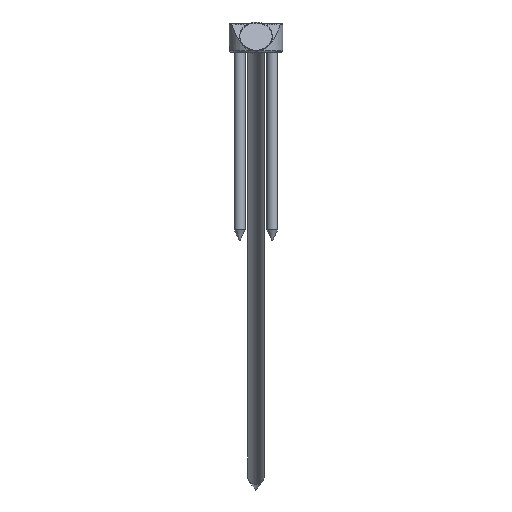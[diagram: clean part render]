
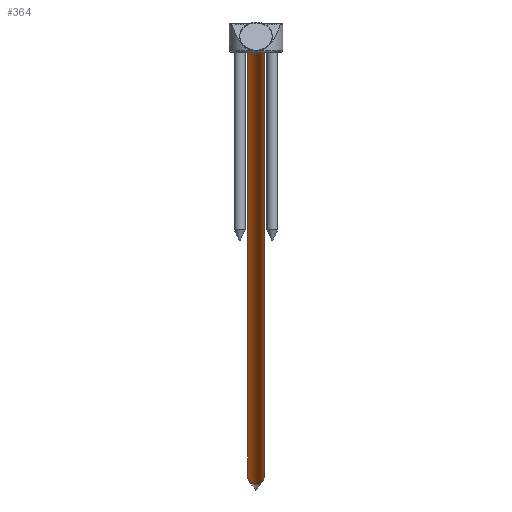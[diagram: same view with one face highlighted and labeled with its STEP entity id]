
A CAD part, front view. The second image highlights one B-rep face of the part: STEP entity #364.
In plain terms, the highlighted cylindrical face has radius 4.5 mm (diameter 9 mm), a full revolution.
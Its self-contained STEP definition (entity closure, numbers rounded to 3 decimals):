
#58=CYLINDRICAL_SURFACE('',#451,4.5);
#144=ORIENTED_EDGE('',*,*,#185,.T.);
#145=ORIENTED_EDGE('',*,*,#184,.F.);
#184=EDGE_CURVE('',#215,#215,#241,.T.);
#185=EDGE_CURVE('',#216,#216,#242,.T.);
#215=VERTEX_POINT('',#706);
#216=VERTEX_POINT('',#709);
#241=CIRCLE('',#450,4.5);
#242=CIRCLE('',#452,4.5);
#284=EDGE_LOOP('',(#144));
#285=EDGE_LOOP('',(#145));
#329=FACE_BOUND('',#284,.T.);
#330=FACE_BOUND('',#285,.T.);
#364=ADVANCED_FACE('',(#329,#330),#58,.T.);
#450=AXIS2_PLACEMENT_3D('',#705,#565,#566);
#451=AXIS2_PLACEMENT_3D('',#707,#567,#568);
#452=AXIS2_PLACEMENT_3D('',#708,#569,#570);
#565=DIRECTION('',(0.,1.,0.));
#566=DIRECTION('',(0.,0.,1.));
#567=DIRECTION('',(0.,1.,0.));
#568=DIRECTION('',(0.,0.,1.));
#569=DIRECTION('',(0.,1.,0.));
#570=DIRECTION('',(0.,0.,1.));
#705=CARTESIAN_POINT('',(0.,42.,0.));
#706=CARTESIAN_POINT('',(0.,42.,4.5));
#707=CARTESIAN_POINT('',(0.,54.,0.));
#708=CARTESIAN_POINT('',(0.,-433.,0.));
#709=CARTESIAN_POINT('',(0.,-433.,4.5));
